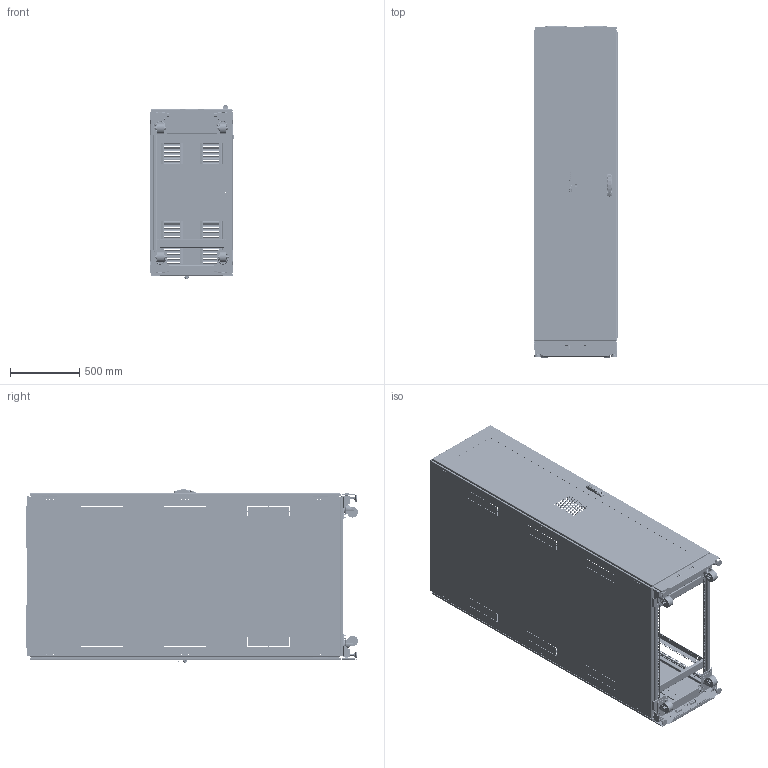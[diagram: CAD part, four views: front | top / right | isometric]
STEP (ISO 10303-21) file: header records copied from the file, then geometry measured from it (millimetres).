
FILE_DESCRIPTION (( 'STEP AP214' ), '1' );
FILE_NAME ('ps1spm23612b.STEP', '2023-08-18T16:41:10', ( '' ), ( '' ), 'SwSTEP 2.0', 'SolidWorks 2020', '' );
FILE_SCHEMA (( 'AUTOMOTIVE_DESIGN' ));
Length unit declared in the file: millimetre
Products named in the file (100): 89183777; 89183762; 87411067; 27131001; 99411910; 89186245; 60127135_installed position SS; 89165870; 89186152; 30127077; 89091664_875472289; 87950638_87950638; 60127208; 87927840_87927840; 89186162; 89165751_89165751; 89183759; 89168254_1 INCH SQUARE; 89166360; 87933633_87933633; 60127013; 89166359; 89183744; 89090302; 11158180_11158180; 89186189; 60127023; 64201001; 11258030_11258030; 11258598_11258598; 89183793; 60127372_60127372; 89186204; 89160886; 89090300; 87931527_87931527; 89229307; 89186183; 89229290; 89160885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
Assembly tree (207 placements, depth 6):
  ps1spm23612b
    89070873_89070873  x4
    89166358  x2
      89166359
      87923500
      87933633_87933633
    89166360  x2
      89166361
      87933633_87933633
      87923500
    89160886  x8
      89160885
      99405840_99405840
    89160224  x4
    89183747
      89183750
        89183753
        89183756
        60100041_60100041  x2
          87931527_87931527
          87931368_SLEEVE
        60127101_After Weld  x2
        87920638_87920638  x6
      89165870
      89168254_1 INCH SQUARE  x3
      89091664_875472289  x4
      89165751_89165751  x2
      89183790  x2
      89101845  x4
    89183759
      89183762
        89183765
        89183777
        60127101_60127101  x2
        87931362_87931362  x2
        99411910  x2
        60100041_60100041  x2
          87931527_87931527
          87931368_SLEEVE
      60127372_60127372
        11158139_11158139
        11258030_11258030
        11458172_11458172
        60127208
        60127207
        11458171_11458171
        11358776_11358776
        11158180_11158180
        11258029_11258029
        11158141_11158141
        11158140_11158140
      87938982_87938982
        64201001
        87541995
        87932266
        87927840_87927840
        64210001
        87950638_87950638
        11258598_11258598
        99401452  x2
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Bounding box: 607.28 x 2389.84 x 1247.87 mm (x, y, z)
Volume: 23392505.4 mm3; surface area: 22460317.5 mm2
Topology: 231 solids, 268 shells, 37709 faces, 100676 edges, 64885 vertices
Faces by surface type: plane 19162, cylinder 14716, bspline 1533, torus 1240, cone 877, sphere 181
Entity records: 621899 total; most frequent: CARTESIAN_POINT 158432, ORIENTED_EDGE 82340, DIRECTION 81556, EDGE_CURVE 41190, AXIS2_PLACEMENT_3D 28856, VERTEX_POINT 26568, LINE 23844, VECTOR 23844
